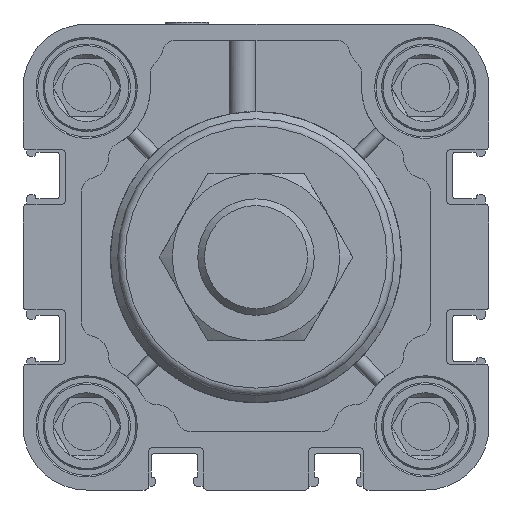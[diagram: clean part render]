
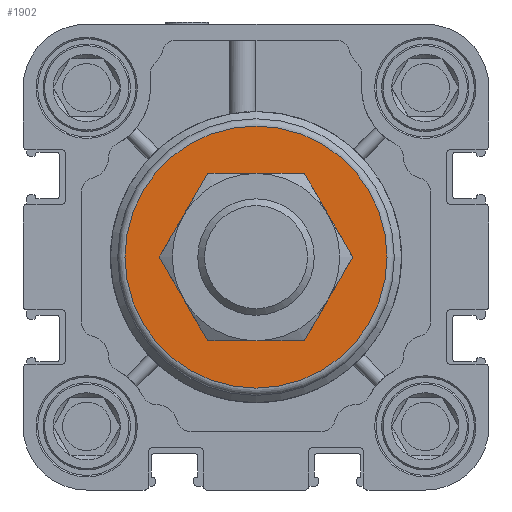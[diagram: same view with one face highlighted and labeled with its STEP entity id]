
A CAD part, left-side view. The second image highlights one B-rep face of the part: STEP entity #1902.
In plain terms, the highlighted planar face has unit normal (-1, 0, 0).
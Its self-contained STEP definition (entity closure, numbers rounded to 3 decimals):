
#1902 = ADVANCED_FACE( '', ( #4063, #4064 ), #4065, .F. );
#4063 = FACE_BOUND( '', #6379, .T. );
#4064 = FACE_OUTER_BOUND( '', #6380, .T. );
#4065 = PLANE( '', #6381 );
#6379 = EDGE_LOOP( '', ( #11650 ) );
#6380 = EDGE_LOOP( '', ( #11651 ) );
#6381 = AXIS2_PLACEMENT_3D( '', #11652, #11653, #11654 );
#11650 = ORIENTED_EDGE( '', *, *, #13843, .F. );
#11651 = ORIENTED_EDGE( '', *, *, #14278, .T. );
#11652 = CARTESIAN_POINT( '', ( -27., 0., 18. ) );
#11653 = DIRECTION( '', ( 1., 0., 0. ) );
#11654 = DIRECTION( '', ( 0., 0., -1. ) );
#13843 = EDGE_CURVE( '', #16815, #16815, #16816, .F. );
#14278 = EDGE_CURVE( '', #17479, #17479, #17480, .T. );
#16815 = VERTEX_POINT( '', #20935 );
#16816 = CIRCLE( '', #20936, 10. );
#17479 = VERTEX_POINT( '', #21944 );
#17480 = CIRCLE( '', #21945, 18. );
#20935 = CARTESIAN_POINT( '', ( -27., 0., -10. ) );
#20936 = AXIS2_PLACEMENT_3D( '', #25052, #25053, #25054 );
#21944 = CARTESIAN_POINT( '', ( -27., 0., 18. ) );
#21945 = AXIS2_PLACEMENT_3D( '', #25666, #25667, #25668 );
#25052 = CARTESIAN_POINT( '', ( -27., 0., 0. ) );
#25053 = DIRECTION( '', ( 1., 0., 0. ) );
#25054 = DIRECTION( '', ( 0., 0., -1. ) );
#25666 = CARTESIAN_POINT( '', ( -27., 0., 0. ) );
#25667 = DIRECTION( '', ( -1., 0., 0. ) );
#25668 = DIRECTION( '', ( 0., 0., 1. ) );
